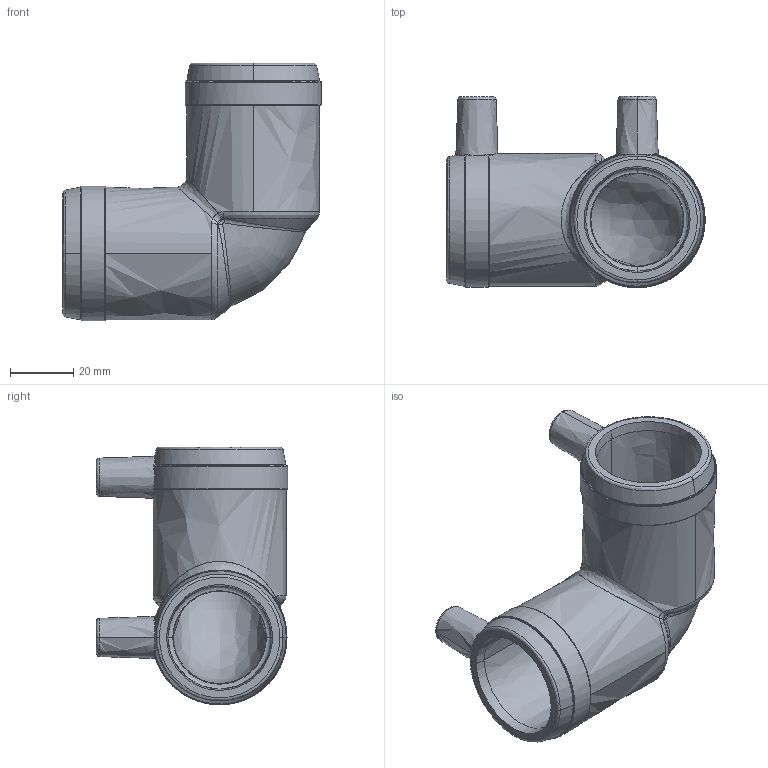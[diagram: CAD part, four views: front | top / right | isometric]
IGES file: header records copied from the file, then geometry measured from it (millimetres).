
Start section:  PTC IGES file: w90_d032_01.igs
Global section: file name: w90_d032_01.igs; native system: Pro/ENGINEER by Parametric Technology Corporation; preprocessor: 2011490; author: mtunjic; organization: Unknown; date: 20130812.093629; units: millimetre
Bounding box: 81.45 x 60.3 x 81.25 mm (x, y, z)
Surface area: 28211.7 mm2 (no closed solid volume)
Topology: 0 solids, 0 shells, 246 faces, 1218 edges, 1218 vertices
Faces by surface type: bspline 246
